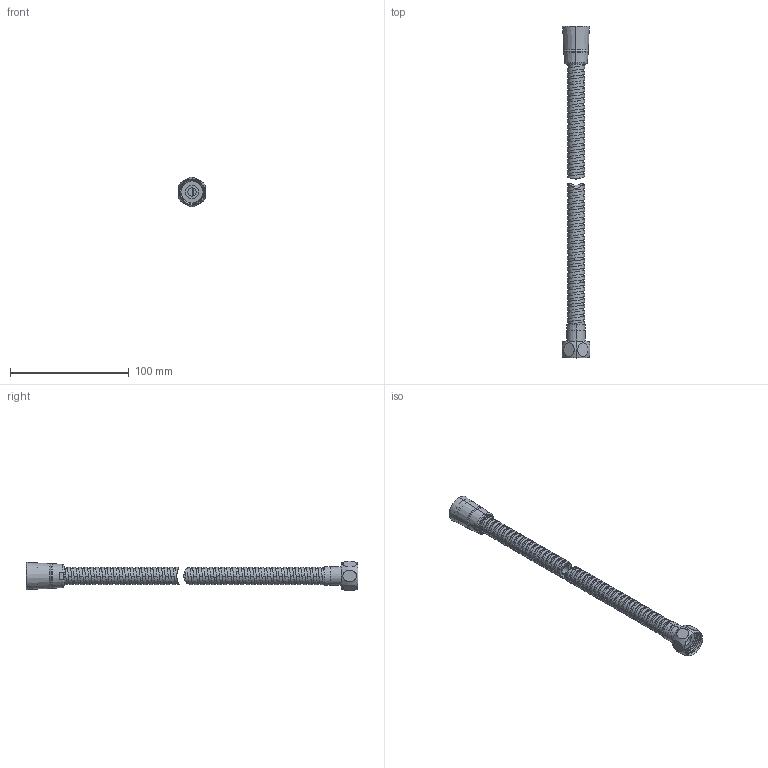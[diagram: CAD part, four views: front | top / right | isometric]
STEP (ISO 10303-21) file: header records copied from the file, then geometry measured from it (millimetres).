
FILE_DESCRIPTION((''),'2;1');
FILE_NAME('76652--00_ASM','2022-10-11T10:05:52',('sosm1'),(''),'CREO PARAMETRIC BY PTC INC, 2018190','CREO PARAMETRIC BY PTC INC, 2018190','');
FILE_SCHEMA(('CONFIG_CONTROL_DESIGN','SHAPE_APPEARANCE_LAYERS_GROUPS'));
Length unit declared in the file: millimetre
Products named in the file (13): 76650_POS11; 76650_POS7; 76650_POS5; 76650_POS3; 76650_POS12; 76650_POS4; 76650_POS9; 76650_POS8; 76650_POS1; 76650_POS2; 76650_POS10; 76650_POS6; 76652--00_ASM
Assembly tree (13 placements, depth 2):
  76652--00_ASM
    76650_POS11
    76650_POS7
    76650_POS5
    76650_POS3  x2
    76650_POS12
    76650_POS4
    76650_POS9
    76650_POS8
    76650_POS1
    76650_POS2
    76650_POS10
    76650_POS6
Bounding box: 23 x 279.8 x 24.88 mm (x, y, z)
Volume: 30945.6 mm3; surface area: 39164.9 mm2
Topology: 14 solids, 14 shells, 400 faces, 946 edges, 599 vertices
Faces by surface type: cylinder 203, bspline 61, plane 56, cone 52, torus 28
Entity records: 26220 total; most frequent: CARTESIAN_POINT 16864, ORIENTED_EDGE 1824, DIRECTION 1520, EDGE_CURVE 912, AXIS2_PLACEMENT_3D 615, VERTEX_POINT 579, EDGE_LOOP 433, FACE_OUTER_BOUND 383
